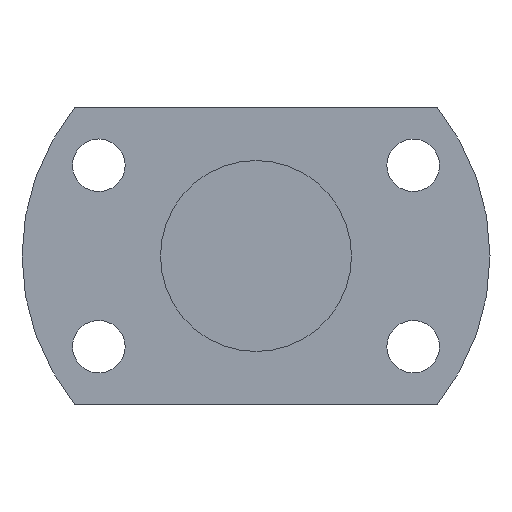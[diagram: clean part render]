
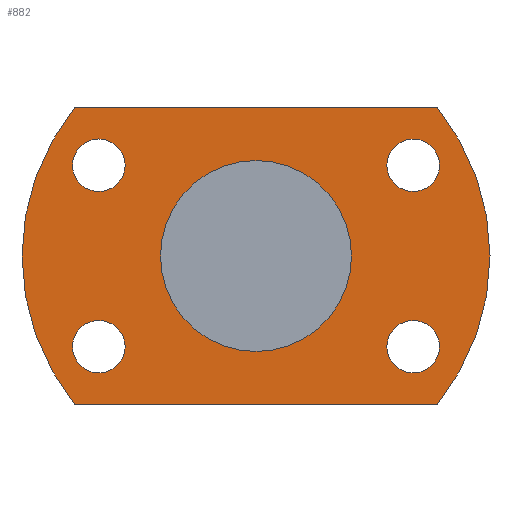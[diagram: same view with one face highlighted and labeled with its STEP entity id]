
A CAD part, left-side view. The second image highlights one B-rep face of the part: STEP entity #882.
In plain terms, the highlighted planar face has unit normal (-1, 0, 0).
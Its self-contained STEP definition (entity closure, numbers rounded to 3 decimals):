
#230=CARTESIAN_POINT('',(115.0,32.909,-13.5));
#231=VERTEX_POINT('',#230);
#232=CARTESIAN_POINT('',(115.0,32.909,-19.0));
#233=DIRECTION('',(1.0,0.0,0.0));
#234=DIRECTION('',(0.0,0.0,1.0));
#235=AXIS2_PLACEMENT_3D('',#232,#233,#234);
#236=CIRCLE('',#235,5.5);
#237=EDGE_CURVE('',#231,#231,#236,.T.);
#279=CARTESIAN_POINT('',(115.0,-32.909,24.5));
#280=VERTEX_POINT('',#279);
#281=CARTESIAN_POINT('',(115.0,-32.909,19.));
#282=DIRECTION('',(1.0,0.0,0.0));
#283=DIRECTION('',(0.0,0.0,1.0));
#284=AXIS2_PLACEMENT_3D('',#281,#282,#283);
#285=CIRCLE('',#284,5.5);
#286=EDGE_CURVE('',#280,#280,#285,.T.);
#328=CARTESIAN_POINT('',(115.0,-32.909,-13.5));
#329=VERTEX_POINT('',#328);
#330=CARTESIAN_POINT('',(115.0,-32.909,-19.));
#331=DIRECTION('',(1.0,0.0,0.0));
#332=DIRECTION('',(0.0,0.0,1.0));
#333=AXIS2_PLACEMENT_3D('',#330,#331,#332);
#334=CIRCLE('',#333,5.5);
#335=EDGE_CURVE('',#329,#329,#334,.T.);
#377=CARTESIAN_POINT('',(115.0,32.909,24.5));
#378=VERTEX_POINT('',#377);
#379=CARTESIAN_POINT('',(115.0,32.909,19.0));
#380=DIRECTION('',(1.0,0.0,0.0));
#381=DIRECTION('',(0.0,0.0,1.0));
#382=AXIS2_PLACEMENT_3D('',#379,#380,#381);
#383=CIRCLE('',#382,5.5);
#384=EDGE_CURVE('',#378,#378,#383,.T.);
#688=CARTESIAN_POINT('',(115.0,-37.947,-31.0));
#689=VERTEX_POINT('',#688);
#696=CARTESIAN_POINT('',(115.0,37.947,-31.0));
#697=VERTEX_POINT('',#696);
#698=CARTESIAN_POINT('',(115.0,37.947,-31.0));
#699=DIRECTION('',(0.0,-1.0,0.0));
#700=VECTOR('',#699,75.895);
#701=LINE('',#698,#700);
#702=EDGE_CURVE('',#697,#689,#701,.T.);
#719=CARTESIAN_POINT('',(115.0,-37.947,31.0));
#720=VERTEX_POINT('',#719);
#727=CARTESIAN_POINT('',(115.0,0.0,0.));
#728=DIRECTION('',(-1.0,0.0,0.0));
#729=DIRECTION('',(0.0,0.0,1.0));
#730=AXIS2_PLACEMENT_3D('',#727,#728,#729);
#731=CIRCLE('',#730,49.0);
#732=EDGE_CURVE('',#689,#720,#731,.T.);
#744=CARTESIAN_POINT('',(115.0,37.947,31.0));
#745=VERTEX_POINT('',#744);
#752=CARTESIAN_POINT('',(115.0,-37.947,31.0));
#753=DIRECTION('',(0.0,1.0,0.0));
#754=VECTOR('',#753,75.895);
#755=LINE('',#752,#754);
#756=EDGE_CURVE('',#720,#745,#755,.T.);
#769=CARTESIAN_POINT('',(115.0,0.0,0.));
#770=DIRECTION('',(-1.0,0.0,0.0));
#771=DIRECTION('',(0.0,0.0,1.0));
#772=AXIS2_PLACEMENT_3D('',#769,#770,#771);
#773=CIRCLE('',#772,49.0);
#774=EDGE_CURVE('',#745,#697,#773,.T.);
#848=CARTESIAN_POINT('',(115.0,0.0,24.5));
#849=DIRECTION('',(-1.0,0.0,0.0));
#850=DIRECTION('',(0.0,0.0,1.0));
#851=AXIS2_PLACEMENT_3D('',#848,#849,#850);
#852=PLANE('',#851);
#853=ORIENTED_EDGE('',*,*,#774,.T.);
#854=ORIENTED_EDGE('',*,*,#702,.T.);
#855=ORIENTED_EDGE('',*,*,#732,.T.);
#856=ORIENTED_EDGE('',*,*,#756,.T.);
#857=EDGE_LOOP('',(#853,#854,#855,#856));
#858=FACE_OUTER_BOUND('',#857,.T.);
#859=ORIENTED_EDGE('',*,*,#237,.T.);
#860=EDGE_LOOP('',(#859));
#861=FACE_BOUND('',#860,.T.);
#862=ORIENTED_EDGE('',*,*,#286,.T.);
#863=EDGE_LOOP('',(#862));
#864=FACE_BOUND('',#863,.T.);
#865=ORIENTED_EDGE('',*,*,#335,.T.);
#866=EDGE_LOOP('',(#865));
#867=FACE_BOUND('',#866,.T.);
#868=ORIENTED_EDGE('',*,*,#384,.T.);
#869=EDGE_LOOP('',(#868));
#870=FACE_BOUND('',#869,.T.);
#871=CARTESIAN_POINT('',(115.0,0.0,20.));
#872=VERTEX_POINT('',#871);
#873=CARTESIAN_POINT('',(115.0,0.0,0.));
#874=DIRECTION('',(-1.0,0.0,0.0));
#875=DIRECTION('',(0.0,0.0,1.0));
#876=AXIS2_PLACEMENT_3D('',#873,#874,#875);
#877=CIRCLE('',#876,20.);
#878=EDGE_CURVE('',#872,#872,#877,.T.);
#879=ORIENTED_EDGE('',*,*,#878,.F.);
#880=EDGE_LOOP('',(#879));
#881=FACE_BOUND('',#880,.T.);
#882=ADVANCED_FACE('',(#858,#861,#864,#867,#870,#881),#852,.T.);
